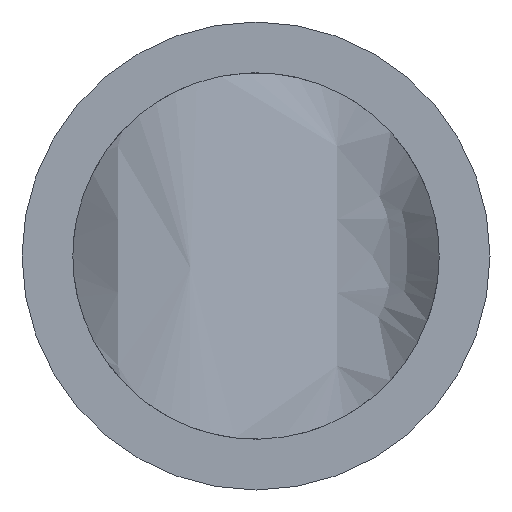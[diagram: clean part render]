
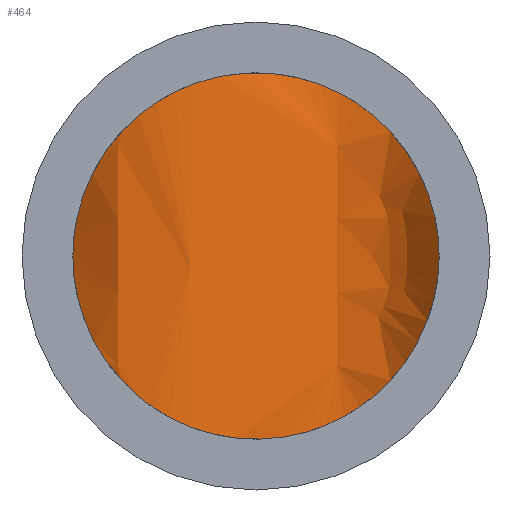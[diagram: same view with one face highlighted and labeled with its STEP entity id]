
A CAD part, front view. The second image highlights one B-rep face of the part: STEP entity #464.
In plain terms, the highlighted face is a extrusion surface.
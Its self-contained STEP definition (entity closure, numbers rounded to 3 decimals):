
#18=CARTESIAN_POINT('',(4.5,-36.94,0.));
#19=CARTESIAN_POINT('',(4.5,-36.94,0.078));
#20=CARTESIAN_POINT('',(4.496,-36.935,0.237));
#21=CARTESIAN_POINT('',(4.476,-36.907,0.488));
#22=CARTESIAN_POINT('',(4.44,-36.859,0.75));
#23=CARTESIAN_POINT('',(4.386,-36.789,1.02));
#24=CARTESIAN_POINT('',(4.311,-36.697,1.301));
#25=CARTESIAN_POINT('',(4.213,-36.583,1.591));
#26=CARTESIAN_POINT('',(4.089,-36.45,1.888));
#27=CARTESIAN_POINT('',(3.938,-36.306,2.186));
#28=CARTESIAN_POINT('',(3.763,-36.16,2.476));
#29=CARTESIAN_POINT('',(3.565,-36.02,2.753));
#30=CARTESIAN_POINT('',(3.353,-35.898,3.007));
#31=CARTESIAN_POINT('',(3.139,-35.801,3.229));
#32=CARTESIAN_POINT('',(2.923,-35.726,3.426));
#33=CARTESIAN_POINT('',(2.705,-35.671,3.6));
#34=CARTESIAN_POINT('',(2.484,-35.636,3.756));
#35=CARTESIAN_POINT('',(2.256,-35.617,3.897));
#36=CARTESIAN_POINT('',(2.017,-35.616,4.026));
#37=CARTESIAN_POINT('',(1.765,-35.632,4.143));
#38=CARTESIAN_POINT('',(1.499,-35.665,4.246));
#39=CARTESIAN_POINT('',(1.214,-35.717,4.337));
#40=CARTESIAN_POINT('',(0.909,-35.787,4.411));
#41=CARTESIAN_POINT('',(0.578,-35.876,4.467));
#42=CARTESIAN_POINT('',(0.234,-35.978,4.498));
#43=CARTESIAN_POINT('',(-0.117,-36.088,4.503));
#44=CARTESIAN_POINT('',(-0.471,-36.198,4.48));
#45=CARTESIAN_POINT('',(-0.822,-36.303,4.429));
#46=CARTESIAN_POINT('',(-1.148,-36.391,4.355));
#47=CARTESIAN_POINT('',(-1.453,-36.463,4.263));
#48=CARTESIAN_POINT('',(-1.741,-36.517,4.153));
#49=CARTESIAN_POINT('',(-2.013,-36.555,4.028));
#50=CARTESIAN_POINT('',(-2.268,-36.575,3.89));
#51=CARTESIAN_POINT('',(-2.509,-36.579,3.739));
#52=CARTESIAN_POINT('',(-2.743,-36.567,3.571));
#53=CARTESIAN_POINT('',(-2.971,-36.538,3.384));
#54=CARTESIAN_POINT('',(-3.192,-36.492,3.177));
#55=CARTESIAN_POINT('',(-3.407,-36.429,2.946));
#56=CARTESIAN_POINT('',(-3.615,-36.348,2.686));
#57=CARTESIAN_POINT('',(-3.809,-36.255,2.404));
#58=CARTESIAN_POINT('',(-3.982,-36.155,2.105));
#59=CARTESIAN_POINT('',(-4.132,-36.055,1.793));
#60=CARTESIAN_POINT('',(-4.254,-35.964,1.478));
#61=CARTESIAN_POINT('',(-4.349,-35.887,1.17));
#62=CARTESIAN_POINT('',(-4.419,-35.826,0.867));
#63=CARTESIAN_POINT('',(-4.467,-35.783,0.572));
#64=CARTESIAN_POINT('',(-4.494,-35.757,0.282));
#65=CARTESIAN_POINT('',(-4.5,-35.752,0.093));
#66=CARTESIAN_POINT('',(-4.5,-35.752,0.));
#72=CARTESIAN_POINT('',(-4.5,-35.752,0.));
#73=CARTESIAN_POINT('',(-4.5,-35.752,-0.093));
#74=CARTESIAN_POINT('',(-4.494,-35.757,
-0.281));
#75=CARTESIAN_POINT('',(-4.467,-35.783,
-0.571));
#76=CARTESIAN_POINT('',(-4.419,-35.826,
-0.867));
#77=CARTESIAN_POINT('',(-4.349,-35.887,-1.17));
#78=CARTESIAN_POINT('',(-4.254,-35.964,-1.479));
#79=CARTESIAN_POINT('',(-4.132,-36.055,-1.794));
#80=CARTESIAN_POINT('',(-3.981,-36.156,-2.107));
#81=CARTESIAN_POINT('',(-3.808,-36.256,-2.406));
#82=CARTESIAN_POINT('',(-3.614,-36.349,-2.688));
#83=CARTESIAN_POINT('',(-3.405,-36.429,-2.948));
#84=CARTESIAN_POINT('',(-3.19,-36.492,-3.178));
#85=CARTESIAN_POINT('',(-2.97,-36.538,-3.385));
#86=CARTESIAN_POINT('',(-2.742,-36.567,-3.572));
#87=CARTESIAN_POINT('',(-2.508,-36.579,-3.74));
#88=CARTESIAN_POINT('',(-2.267,-36.575,-3.891));
#89=CARTESIAN_POINT('',(-2.012,-36.554,-4.029));
#90=CARTESIAN_POINT('',(-1.74,-36.517,-4.154));
#91=CARTESIAN_POINT('',(-1.452,-36.462,-4.263));
#92=CARTESIAN_POINT('',(-1.147,-36.391,-4.355));
#93=CARTESIAN_POINT('',(-0.821,-36.302,
-4.429));
#94=CARTESIAN_POINT('',(-0.471,-36.198,
-4.48));
#95=CARTESIAN_POINT('',(-0.117,-36.087,
-4.503));
#96=CARTESIAN_POINT('',(0.234,-35.978,-4.498));
#97=CARTESIAN_POINT('',(0.578,-35.876,-4.467));
#98=CARTESIAN_POINT('',(0.909,-35.787,-4.411));
#99=CARTESIAN_POINT('',(1.214,-35.717,-4.337));
#100=CARTESIAN_POINT('',(1.499,-35.665,-4.246));
#101=CARTESIAN_POINT('',(1.765,-35.632,-4.143));
#102=CARTESIAN_POINT('',(2.017,-35.616,-4.026));
#103=CARTESIAN_POINT('',(2.255,-35.617,-3.897));
#104=CARTESIAN_POINT('',(2.483,-35.636,-3.756));
#105=CARTESIAN_POINT('',(2.704,-35.671,-3.6));
#106=CARTESIAN_POINT('',(2.922,-35.725,-3.426));
#107=CARTESIAN_POINT('',(3.138,-35.8,-3.23));
#108=CARTESIAN_POINT('',(3.352,-35.898,-3.008));
#109=CARTESIAN_POINT('',(3.564,-36.02,-2.754));
#110=CARTESIAN_POINT('',(3.762,-36.159,-2.477));
#111=CARTESIAN_POINT('',(3.938,-36.306,-2.187));
#112=CARTESIAN_POINT('',(4.089,-36.45,-1.889));
#113=CARTESIAN_POINT('',(4.213,-36.583,-1.591));
#114=CARTESIAN_POINT('',(4.311,-36.697,-1.301));
#115=CARTESIAN_POINT('',(4.386,-36.789,-1.02));
#116=CARTESIAN_POINT('',(4.44,-36.859,
-0.749));
#117=CARTESIAN_POINT('',(4.476,-36.907,
-0.488));
#118=CARTESIAN_POINT('',(4.496,-36.935,
-0.237));
#119=CARTESIAN_POINT('',(4.5,-36.94,-0.078));
#120=CARTESIAN_POINT('',(4.5,-36.94,0.));
#413=VERTEX_POINT('',#18);
#414=VERTEX_POINT('',#66);
#447=CARTESIAN_POINT('',(4.557,-37.02,-9.081));
#448=CARTESIAN_POINT('',(4.538,-36.993,-9.081));
#449=CARTESIAN_POINT('',(3.754,-35.893,-9.081));
#450=CARTESIAN_POINT('',(1.582,-35.132,-9.081));
#451=CARTESIAN_POINT('',(-1.643,-36.949,-9.081));
#452=CARTESIAN_POINT('',(-3.805,-36.422,-9.081));
#453=CARTESIAN_POINT('',(-4.548,-35.706,-9.081));
#454=CARTESIAN_POINT('',(-4.572,-35.682,-9.081));
#456=DIRECTION('',(0.,0.,1.));
#457=VECTOR('',#456,1.);
#458=SURFACE_OF_LINEAR_EXTRUSION('',#455,#457);
#459=ORIENTED_EDGE('',*,*,#436,.F.);
#461=ORIENTED_EDGE('',*,*,#460,.F.);
#462=EDGE_LOOP('',(#459,#461));
#463=FACE_OUTER_BOUND('',#462,.F.);
#67=B_SPLINE_CURVE_WITH_KNOTS('',3,(#18,#19,#20,#21,#22,#23,#24,#25,#26,#27,#28,
#29,#30,#31,#32,#33,#34,#35,#36,#37,#38,#39,#40,#41,#42,#43,#44,#45,#46,#47,#48,
#49,#50,#51,#52,#53,#54,#55,#56,#57,#58,#59,#60,#61,#62,#63,#64,#65,#66),
.UNSPECIFIED.,.F.,.F.,(4,1,1,1,1,1,1,1,1,1,1,1,1,1,1,1,1,1,1,1,1,1,1,1,1,1,1,1,
1,1,1,1,1,1,1,1,1,1,1,1,1,1,1,1,1,1,4),(0.,0.022,
0.043,0.065,0.087,0.109,
0.13,0.152,0.174,0.196,
0.217,0.239,0.261,0.283,
0.304,0.326,0.348,0.37,
0.391,0.413,0.435,0.457,
0.478,0.5,0.522,0.543,0.565,
0.587,0.609,0.63,0.652,
0.674,0.696,0.717,0.739,
0.761,0.783,0.804,0.826,
0.848,0.87,0.891,0.913,
0.935,0.957,0.978,1.),.UNSPECIFIED.);
#121=B_SPLINE_CURVE_WITH_KNOTS('',3,(#72,#73,#74,#75,#76,#77,#78,#79,#80,#81,
#82,#83,#84,#85,#86,#87,#88,#89,#90,#91,#92,#93,#94,#95,#96,#97,#98,#99,#100,
#101,#102,#103,#104,#105,#106,#107,#108,#109,#110,#111,#112,#113,#114,#115,#116,
#117,#118,#119,#120),.UNSPECIFIED.,.F.,.F.,(4,1,1,1,1,1,1,1,1,1,1,1,1,1,1,1,1,1,
1,1,1,1,1,1,1,1,1,1,1,1,1,1,1,1,1,1,1,1,1,1,1,1,1,1,1,1,4),(0.,
0.022,0.043,0.065,0.087,
0.109,0.13,0.152,0.174,
0.196,0.217,0.239,0.261,
0.283,0.304,0.326,0.348,
0.37,0.391,0.413,0.435,
0.457,0.478,0.5,0.522,0.543,
0.565,0.587,0.609,0.63,
0.652,0.674,0.696,0.717,
0.739,0.761,0.783,0.804,
0.826,0.848,0.87,0.891,
0.913,0.935,0.957,0.978,1.),
.UNSPECIFIED.);
#436=EDGE_CURVE('',#413,#414,#67,.T.);
#455=B_SPLINE_CURVE_WITH_KNOTS('',3,(#447,#448,#449,#450,#451,#452,#453,#454),
.UNSPECIFIED.,.F.,.F.,(4,1,1,1,1,4),(0.,0.007,0.299,
0.744,0.992,1.),.UNSPECIFIED.);
#460=EDGE_CURVE('',#414,#413,#121,.T.);
#464=ADVANCED_FACE('',(#463),#458,.F.);
